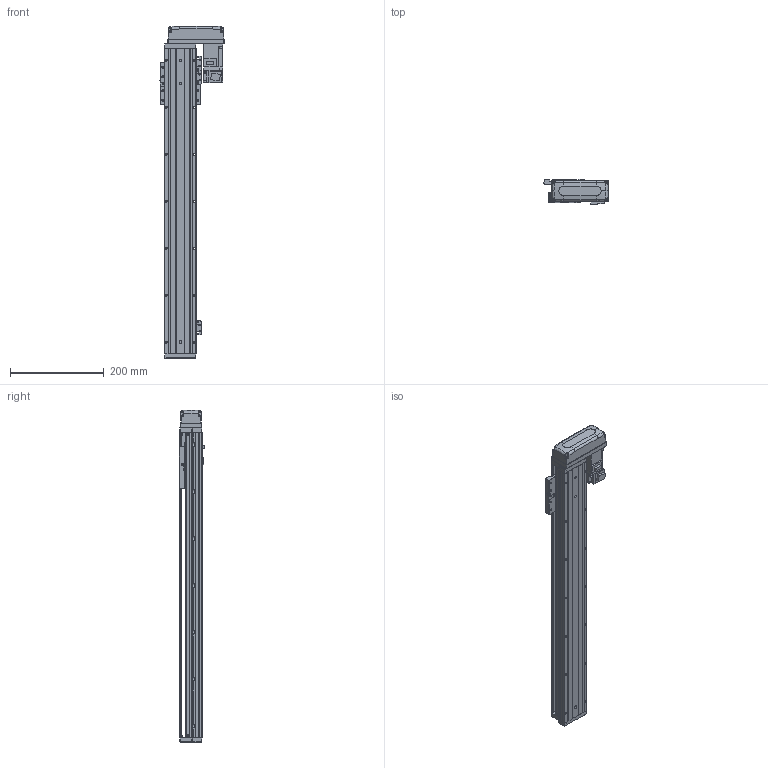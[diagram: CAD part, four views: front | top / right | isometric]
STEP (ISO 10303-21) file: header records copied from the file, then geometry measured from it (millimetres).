
FILE_DESCRIPTION (( 'STEP AP203' ), '1' );
FILE_NAME ('KTHAL60-500-BL-M10-C4L.step', '2022-03-19T08:38:27', ( '微软用户' ), ( '微软中国' ), 'SwSTEP 2.0', 'SolidWorks 2020', '' );
FILE_SCHEMA (( 'CONFIG_CONTROL_DESIGN' ));
Length unit declared in the file: millimetre
Products named in the file (18): GBT 70.3-M3℅6; CTHA60-016; EE_SX911P_R; HG-KR13（三菱）; KTHA60-001_650; CTHA60-017; CTHA60-015-2_CTHA60-015-2; KTHLA60-002; CTHA60-021; CTHA60-033; KTHA60-004; GBT 70.1-M4×16; GBT 70.1-M3×15; KTHA60-005; GBT77-2000M3-3; KTHAL60-500-BL-M10-C4L; GB¨uT 70.2-M3¡Á5_M3¡Á6; GBT 70.1-M3℅6
Assembly tree (51 placements, depth 2):
  KTHAL60-500-BL-M10-C4L
    KTHA60-001_650
    KTHLA60-002
    KTHA60-004
    KTHA60-005
    GB¨uT 70.2-M3¡Á5_M3¡Á6  x5
    GBT 70.3-M3℅6  x4
    EE_SX911P_R  x3
    CTHA60-017  x3
    CTHA60-021  x2
    GBT 70.1-M4×16  x10
    GBT77-2000M3-3  x6
    GBT 70.1-M3℅6  x6
    CTHA60-016
    HG-KR13（三菱）
    CTHA60-015-2_CTHA60-015-2
    CTHA60-033
    GBT 70.1-M3×15  x4
Bounding box: 137 x 53.3 x 707 mm (x, y, z)
Volume: 1534738.2 mm3; surface area: 378819.7 mm2
Topology: 54 solids, 54 shells, 2295 faces, 5443 edges, 3341 vertices
Faces by surface type: plane 1312, cylinder 559, cone 286, torus 98, bspline 26, sphere 14
Entity records: 39993 total; most frequent: CARTESIAN_POINT 7560, DIRECTION 6243, ORIENTED_EDGE 6030, EDGE_CURVE 3015, AXIS2_PLACEMENT_3D 2091, LINE 2061, VECTOR 2061, VERTEX_POINT 1890
